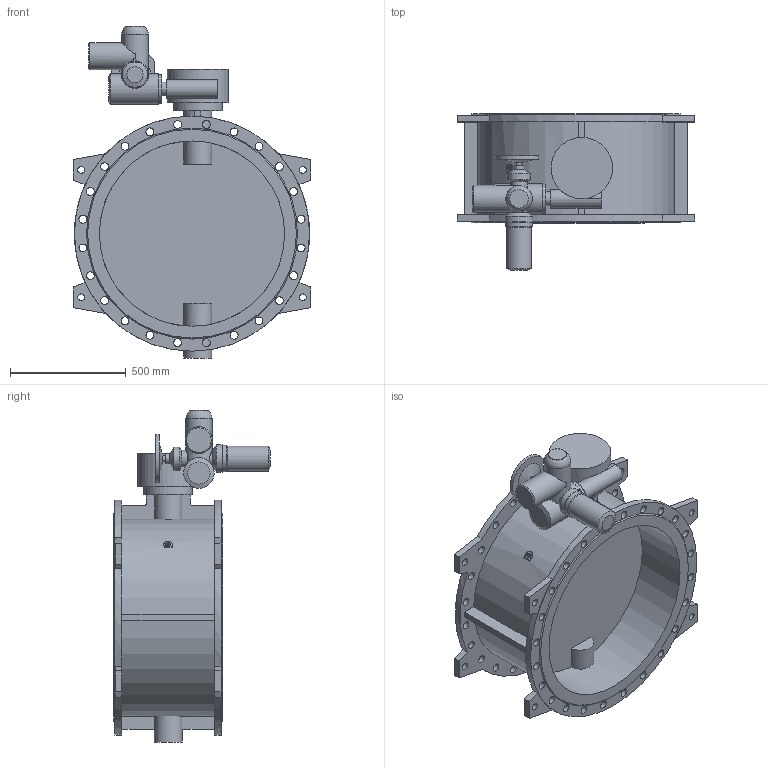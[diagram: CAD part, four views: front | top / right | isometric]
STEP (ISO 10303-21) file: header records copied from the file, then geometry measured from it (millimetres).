
FILE_DESCRIPTION(('STEP AP203'), '1');
FILE_NAME('Çàòâîð 023F.Z DN800 PN10 + ðåäóêòîð + ÌÒ903.À10', '', ('UNSPECIFIED'), ('UNSPECIFIED'), 'ASCON STEP Converter 1.6', 'ASCON Math Kernel', '');
FILE_SCHEMA(('CONFIG_CONTROL_DESIGN'));
Length unit declared in the file: millimetre
Bounding box: 1026 x 675.5 x 1433 mm (x, y, z)
Volume: 104828037.7 mm3; surface area: 5614683.7 mm2
Topology: 1 solids, 1 shells, 236 faces, 585 edges, 384 vertices
Faces by surface type: cylinder 115, plane 109, cone 11, torus 1
Full cylindrical faces by diameter (mm): 8.5 x4, 12 x4, 18.5 x4, 23 x4, 24 x1, 30 x8, 34 x48, 42 x1, 60 x1, 66 x1, 72 x1, 80 x2, 100 x1, 108 x1, 114 x1, 115 x1, 116 x1, 119 x1, 120 x1, 125 x1, 132 x1, 210 x1, 265 x1, 800 x2, 1015 x2
Entity records: 10784 total; most frequent: CARTESIAN_POINT 3297, DIRECTION 1160, ORIENTED_EDGE 950, EDGE_LOOP 490, AXIS2_PLACEMENT_3D 483, EDGE_CURVE 475, VERTEX_POINT 383, FACE_BOUND 288
